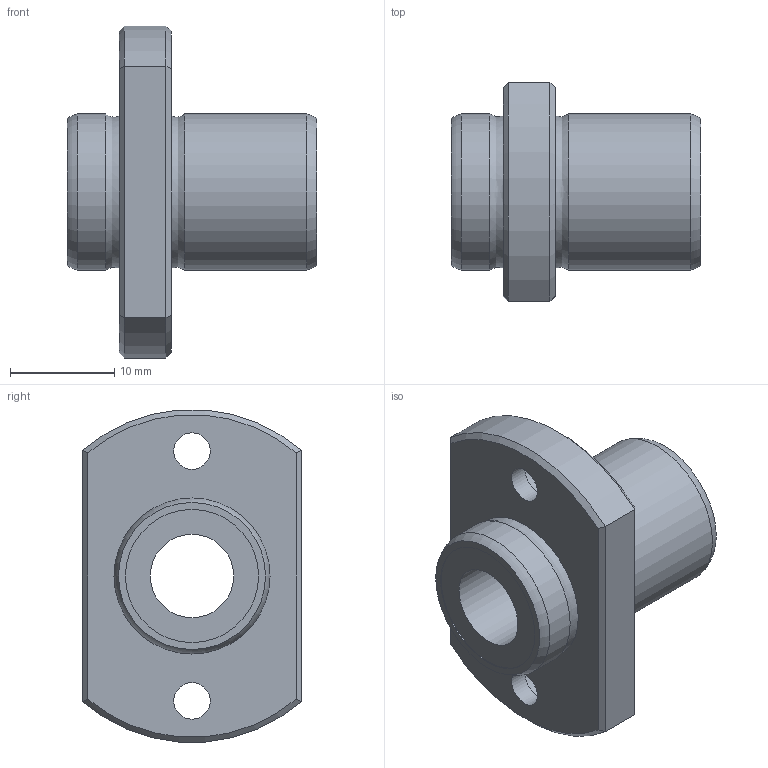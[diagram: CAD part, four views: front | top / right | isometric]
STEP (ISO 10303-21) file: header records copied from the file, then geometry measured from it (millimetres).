
FILE_DESCRIPTION((''),'2;1');
FILE_NAME('D:\製品 (図面)\カタログ用3D\リニアベアリング関連\STEP形式\LFTB\LFTB8.stp','2010-06-04T09:22:16',('Tsuchiya'),(''),'Autodesk Inventor 10','Autodesk Inventor 10','');
FILE_SCHEMA(('AUTOMOTIVE_DESIGN { 1 0 10303 214 1 1 1 1 }'));
Length unit declared in the file: millimetre
Products named in the file (1): LFTB8
Bounding box: 24 x 21 x 31.9 mm (x, y, z)
Volume: 4952.5 mm3; surface area: 3166.5 mm2
Topology: 1 solids, 1 shells, 33 faces, 63 edges, 38 vertices
Faces by surface type: plane 12, bspline 8, cylinder 7, cone 4, torus 2
Full cylindrical faces by diameter (mm): 8 x1, 12.8 x2, 15 x2
Entity records: 977 total; most frequent: CARTESIAN_POINT 344, DIRECTION 124, ORIENTED_EDGE 100, EDGE_LOOP 58, AXIS2_PLACEMENT_3D 56, EDGE_CURVE 50, VERTEX_POINT 38, FACE_OUTER_BOUND 33
